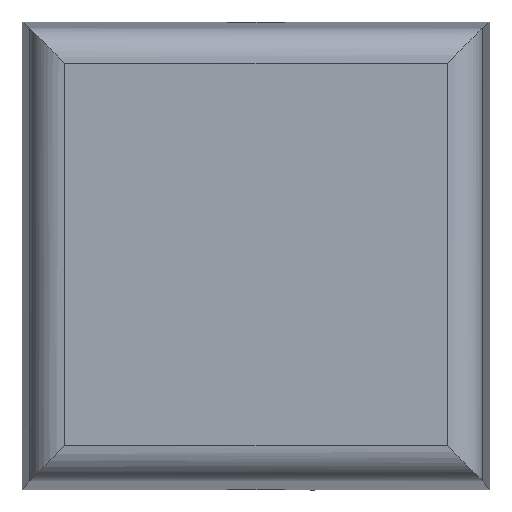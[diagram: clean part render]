
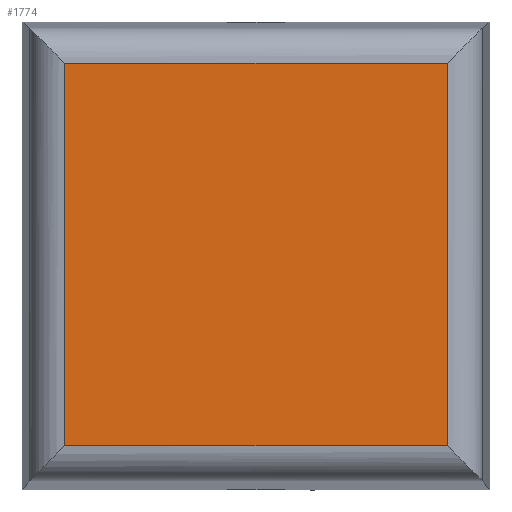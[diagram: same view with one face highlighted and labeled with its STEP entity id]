
A CAD part, top view. The second image highlights one B-rep face of the part: STEP entity #1774.
In plain terms, the highlighted planar face has unit normal (0, 0, 1).
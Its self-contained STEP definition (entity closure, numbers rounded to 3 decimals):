
#1675=CARTESIAN_POINT('',(-16.377,16.377,68.289));
#1676=VERTEX_POINT('',#1675);
#1684=CARTESIAN_POINT('',(16.377,16.377,68.289));
#1685=VERTEX_POINT('',#1684);
#1686=CARTESIAN_POINT('',(-16.377,16.377,68.289));
#1687=DIRECTION('',(1.0,0.0,0.0));
#1688=VECTOR('',#1687,32.754);
#1689=LINE('',#1686,#1688);
#1690=EDGE_CURVE('',#1676,#1685,#1689,.T.);
#1708=CARTESIAN_POINT('',(-16.377,-16.377,68.289));
#1709=VERTEX_POINT('',#1708);
#1718=CARTESIAN_POINT('',(16.377,-16.377,68.289));
#1719=VERTEX_POINT('',#1718);
#1727=CARTESIAN_POINT('',(-16.377,-16.377,68.289));
#1728=DIRECTION('',(1.0,0.0,0.0));
#1729=VECTOR('',#1728,32.754);
#1730=LINE('',#1727,#1729);
#1731=EDGE_CURVE('',#1709,#1719,#1730,.T.);
#1742=CARTESIAN_POINT('',(-16.377,16.377,68.289));
#1743=DIRECTION('',(0.,-1.0,0.));
#1744=VECTOR('',#1743,32.754);
#1745=LINE('',#1742,#1744);
#1746=EDGE_CURVE('',#1676,#1709,#1745,.T.);
#1758=CARTESIAN_POINT('',(-16.377,20.,68.289));
#1759=DIRECTION('',(0.,0.,1.0));
#1760=DIRECTION('',(0.,-1.0,0.));
#1761=AXIS2_PLACEMENT_3D('',#1758,#1759,#1760);
#1762=PLANE('',#1761);
#1763=ORIENTED_EDGE('',*,*,#1731,.T.);
#1764=CARTESIAN_POINT('',(16.377,16.377,68.289));
#1765=DIRECTION('',(0.,-1.0,0.));
#1766=VECTOR('',#1765,32.754);
#1767=LINE('',#1764,#1766);
#1768=EDGE_CURVE('',#1685,#1719,#1767,.T.);
#1769=ORIENTED_EDGE('',*,*,#1768,.F.);
#1770=ORIENTED_EDGE('',*,*,#1690,.F.);
#1771=ORIENTED_EDGE('',*,*,#1746,.T.);
#1772=EDGE_LOOP('',(#1763,#1769,#1770,#1771));
#1773=FACE_OUTER_BOUND('',#1772,.T.);
#1774=ADVANCED_FACE('',(#1773),#1762,.T.);
